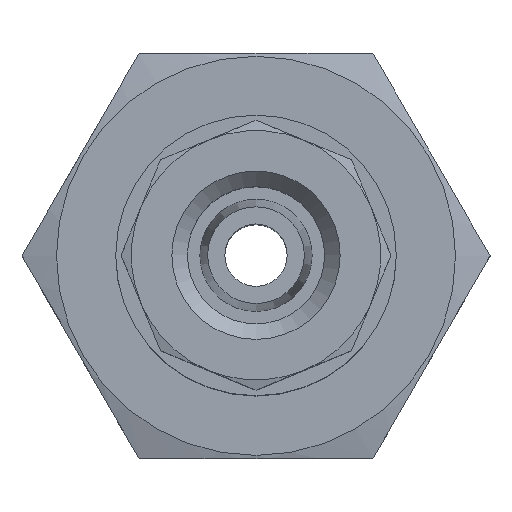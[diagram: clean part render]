
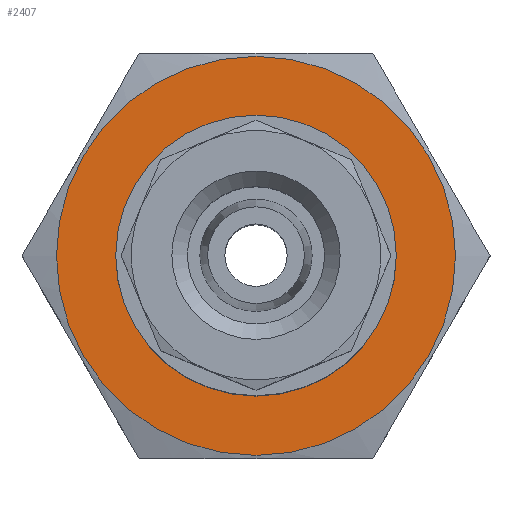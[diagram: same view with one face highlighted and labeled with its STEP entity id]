
A CAD part, top view. The second image highlights one B-rep face of the part: STEP entity #2407.
In plain terms, the highlighted planar face has unit normal (0, 0, 1) as drawn and (0, 1, 0) by its records, which use the part's own axes.
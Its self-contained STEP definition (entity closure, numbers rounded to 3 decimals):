
#675=PLANE('',#2287);
#740=ORIENTED_EDGE('',*,*,#1021,.F.);
#741=ORIENTED_EDGE('',*,*,#1023,.T.);
#888=CIRCLE('',#2285,6.4);
#889=CIRCLE('',#2288,2.75);
#944=VERTEX_POINT('',#2078);
#945=VERTEX_POINT('',#2082);
#1021=EDGE_CURVE('',#944,#944,#888,.T.);
#1023=EDGE_CURVE('',#945,#945,#889,.T.);
#1113=EDGE_LOOP('',(#740));
#1114=EDGE_LOOP('',(#741));
#1211=FACE_BOUND('',#1113,.T.);
#1212=FACE_BOUND('',#1114,.T.);
#1794=DIRECTION('',(0.,-1.,0.));
#1795=DIRECTION('',(0.,0.,6.4));
#1798=DIRECTION('',(0.,1.,0.));
#1799=DIRECTION('',(1.,0.,0.));
#1800=DIRECTION('',(0.,-1.,0.));
#1801=DIRECTION('',(0.,0.,2.75));
#2078=CARTESIAN_POINT('',(90.515,124.567,6.4));
#2079=CARTESIAN_POINT('',(90.515,124.567,0.));
#2081=CARTESIAN_POINT('',(96.915,124.567,0.));
#2082=CARTESIAN_POINT('',(90.515,124.567,2.75));
#2083=CARTESIAN_POINT('',(90.515,124.567,0.));
#2285=AXIS2_PLACEMENT_3D('',#2079,#1794,#1795);
#2287=AXIS2_PLACEMENT_3D('',#2081,#1798,#1799);
#2288=AXIS2_PLACEMENT_3D('',#2083,#1800,#1801);
#2407=ADVANCED_FACE('',(#1211,#1212),#675,.T.);
